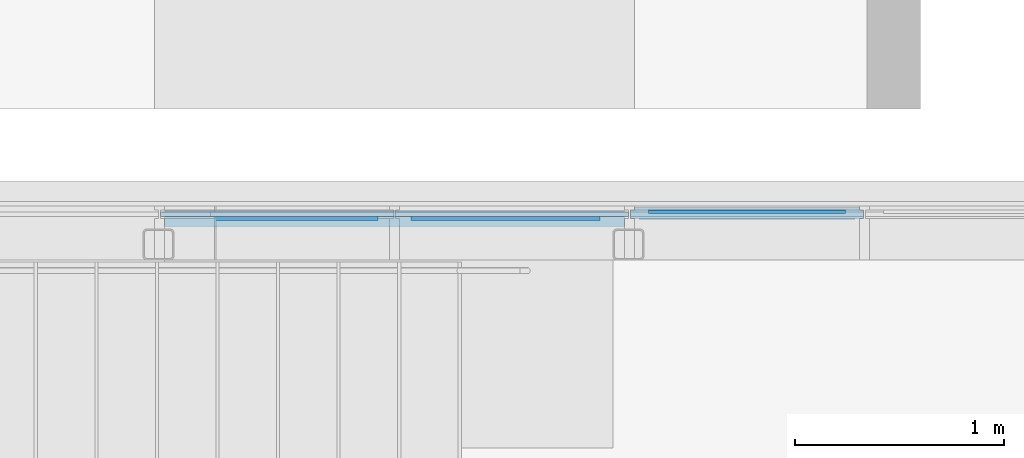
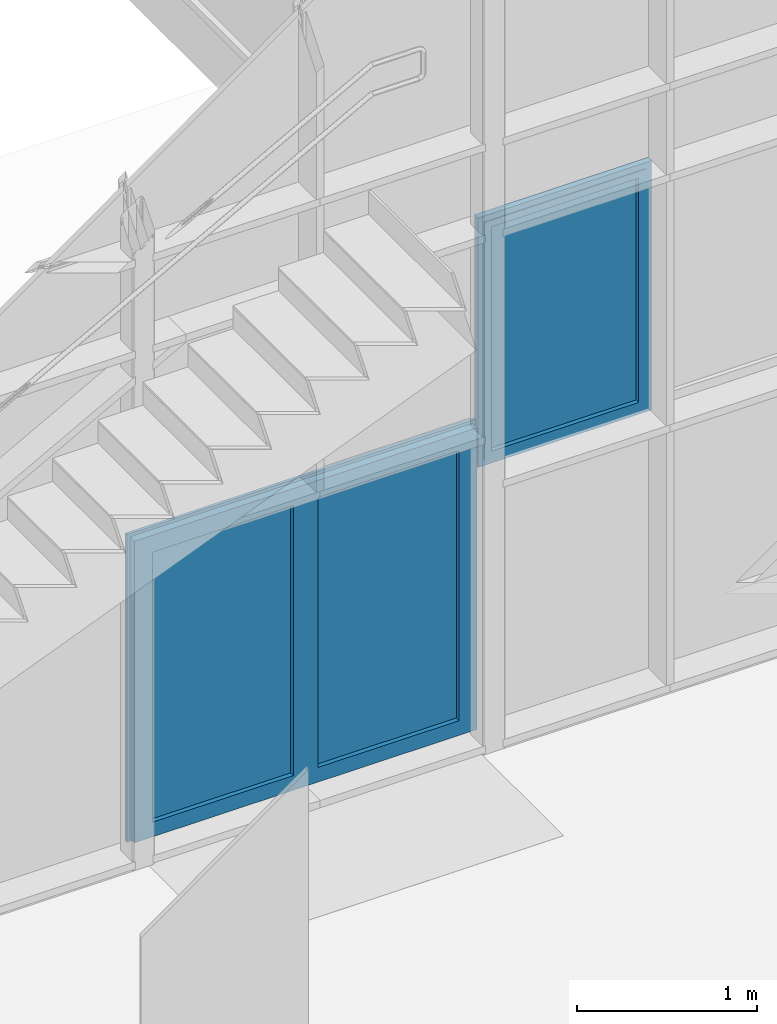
# One storey, part 201 of 301: 4 building element parts, 3 elements without a shape of their own.
"""IFC2X3 building model written with IfcOpenShell, lengths in millimetres."""

import ifcopenshell
import ifcopenshell.guid

model = None  # the IFC model being written
_history = None  # IfcOwnerHistory: only IFC2X3 demands one
_inside = {}  # id of a spatial element -> (the spatial element, [elements in it])
_under = {}  # id of a project, library or spatial element -> (it, [spatial elements below it])
_declared = {}  # id of a project -> (the project, [libraries it declares])
_typed = {}  # id of a type object -> (the type object, [elements of that type])
_made_of = {}  # id of a material, layer set ... -> (it, [elements and type objects made of it])


def new_model(schema):
    """Start an empty IFC model of exactly this schema.

    Asked for "IFC4X3", IfcOpenShell would pick the latest addendum, in which some entities
    have other attributes; the version numbers below select the first issue.
    IFC2X3 requires an IfcOwnerHistory on every rooted entity: one is made here for all.
    """
    global model, _history
    if schema == "IFC4X3":
        model = ifcopenshell.file(schema_version=(4, 3, 0, 0))
    else:
        model = ifcopenshell.file(schema=schema)
    _inside.clear()
    _under.clear()
    _declared.clear()
    _typed.clear()
    _made_of.clear()
    _history = None
    if model.schema == "IFC2X3":
        org = make("IfcOrganization", Name="unknown")
        user = make(
            "IfcPersonAndOrganization",
            ThePerson=make("IfcPerson", FamilyName="unknown"),
            TheOrganization=org,
        )
        app = make(
            "IfcApplication",
            ApplicationDeveloper=org,
            Version="unknown",
            ApplicationFullName="unknown",
            ApplicationIdentifier="unknown",
        )
        _history = make(
            "IfcOwnerHistory",
            OwningUser=user,
            OwningApplication=app,
            ChangeAction="ADDED",
            CreationDate=0,
        )
    return model


def make(cls, **values):
    """One entity of the class cls with the attributes given. An attribute that is None is left unset."""
    return model.create_entity(
        cls, **{name: value for name, value in values.items() if value is not None}
    )


def entity(cls, *values):
    """Any entity or typed value of the class cls, its attributes in the order of the schema. None: left unset."""
    e = model.create_entity(cls)
    for i, value in enumerate(values):
        if value is not None:
            e[i] = value
    return e


def rooted(cls, **values):
    """An entity with a GlobalId (a new one), such as an element, a storey or a relation."""
    return make(cls, GlobalId=ifcopenshell.guid.new(), OwnerHistory=_history, **values)


def si_unit(unit_type, name, prefix=None):
    """IfcSIUnit, for example si_unit("LENGTHUNIT", "METRE", prefix="MILLI")."""
    return make("IfcSIUnit", UnitType=unit_type, Prefix=prefix, Name=name)


def converted_unit(unit_type, name, factor, base, dimensions=None, offset=None):
    """IfcConversionBasedUnit, such as the inch: factor (a typed value) times the base unit."""
    return make(
        "IfcConversionBasedUnit"
        if offset is None
        else "IfcConversionBasedUnitWithOffset",
        ConversionOffset=offset,
        Dimensions=None
        if dimensions is None
        else entity("IfcDimensionalExponents", *dimensions),
        UnitType=unit_type,
        Name=name,
        ConversionFactor=make(
            "IfcMeasureWithUnit", ValueComponent=factor, UnitComponent=base
        ),
    )


def derived_unit(unit_type, elements):
    """IfcDerivedUnit: a product of units, each with its exponent."""
    return make(
        "IfcDerivedUnit",
        Elements=[
            make("IfcDerivedUnitElement", Unit=unit, Exponent=power)
            for unit, power in elements
        ],
        UnitType=unit_type,
    )


def money_unit(currency):
    """IfcMonetaryUnit."""
    return make("IfcMonetaryUnit", Currency=currency)


def assignment(units):
    """IfcUnitAssignment: the units of a project."""
    return None if units is None else make("IfcUnitAssignment", Units=units)


def point(xyz):
    """IfcCartesianPoint."""
    return None if xyz is None else make("IfcCartesianPoint", Coordinates=xyz)


def direction(xyz):
    """IfcDirection."""
    return None if xyz is None else make("IfcDirection", DirectionRatios=xyz)


def frame(location, z_axis=None, x_axis=None):
    """IfcAxis2Placement3D, a coordinate frame: its origin and axes. An axis left out is left unset."""
    return make(
        "IfcAxis2Placement3D",
        Location=point(location),
        Axis=direction(z_axis),
        RefDirection=direction(x_axis),
    )


def origin_with_axes():
    """The frame at (0, 0, 0) with the z axis (0, 0, 1) and the x axis (1, 0, 0) written out."""
    return frame((0.0, 0.0, 0.0), z_axis=(0.0, 0.0, 1.0), x_axis=(1.0, 0.0, 0.0))


def place(relative_to, where):
    """IfcLocalPlacement: puts the frame where relative to a parent placement (None: the world)."""
    return make(
        "IfcLocalPlacement", PlacementRelTo=relative_to, RelativePlacement=where
    )


def context(
    kind, dimensions, precision=None, world=None, true_north=None, identifier=None
):
    """IfcGeometricRepresentationContext, for example the 3D "Model" context."""
    return make(
        "IfcGeometricRepresentationContext",
        ContextIdentifier=identifier,
        ContextType=kind,
        CoordinateSpaceDimension=dimensions,
        Precision=precision,
        WorldCoordinateSystem=world,
        TrueNorth=true_north,
    )


def subcontext(parent, identifier, kind, view, scale=None):
    """IfcGeometricRepresentationSubContext, for example "Body" below "Model"."""
    return make(
        "IfcGeometricRepresentationSubContext",
        ContextIdentifier=identifier,
        ContextType=kind,
        ParentContext=parent,
        TargetScale=scale,
        TargetView=view,
    )


def project(units=None, contexts=None):
    """IfcProject with its units and contexts."""
    return rooted(
        "IfcProject",
        Name="project",
        RepresentationContexts=contexts,
        UnitsInContext=assignment(units),
    )


def spatial(cls, under=None, at=None, **own):
    """A site, building, storey or space (cls), placed at a placement, below another one or the project."""
    s = rooted(cls, ObjectPlacement=at, **own)
    if under is not None:
        _under.setdefault(under.id(), (under, []))[1].append(s)
    return s


def faces_of(points, faces, orient=None, outer=None):
    """IfcFace entities. A face is a list of loops; a loop is a list of indices into points, from 0.

    orient and outer hold one flag for each loop. By default every Orientation is true, the
    first loop of a face is its IfcFaceOuterBound and the others are IfcFaceBound.
    """
    made = []
    for i, loops in enumerate(faces):
        bounds = []
        for j, loop in enumerate(loops):
            is_outer = j == 0 if outer is None else outer[i][j]
            bounds.append(
                make(
                    "IfcFaceOuterBound" if is_outer else "IfcFaceBound",
                    Bound=make("IfcPolyLoop", Polygon=[points[k] for k in loop]),
                    Orientation=True if orient is None else orient[i][j],
                )
            )
        made.append(make("IfcFace", Bounds=bounds))
    return made


def open_shell(faces, orient=None, outer=None):
    """The faces of one IfcOpenShell. surface_model builds it on its shared points."""
    return ("IfcOpenShell", faces, orient, outer)


def faceted_brep(points, faces, orient=None, outer=None, voids=None):
    """IfcFacetedBrep: a solid bounded by flat faces; with voids (closed shells), ...WithVoids."""
    shared = [point(p) for p in points]
    hull = make("IfcClosedShell", CfsFaces=faces_of(shared, faces, orient, outer))
    if voids is None:
        return make("IfcFacetedBrep", Outer=hull)
    return make(
        "IfcFacetedBrepWithVoids",
        Outer=hull,
        Voids=[
            make(cls, CfsFaces=faces_of(shared, fs, o, b)) for cls, fs, o, b in voids
        ],
    )


def surface_model(cls, points, shells):
    """IfcFaceBasedSurfaceModel or IfcShellBasedSurfaceModel (cls): surfaces that need not close."""
    shared = [point(p) for p in points]
    made = [make(c, CfsFaces=faces_of(shared, fs, o, b)) for c, fs, o, b in shells]
    if cls == "IfcFaceBasedSurfaceModel":
        return make(cls, FbsmFaces=made)
    return make(cls, SbsmBoundary=made)


def shape(context_of_items, identifier, shape_type, items):
    """IfcShapeRepresentation: the items that make up one representation, for example the "Body"."""
    return make(
        "IfcShapeRepresentation",
        ContextOfItems=context_of_items,
        RepresentationIdentifier=identifier,
        RepresentationType=shape_type,
        Items=items,
    )


def material(Name=None, Category=None):
    """IfcMaterial."""
    return make("IfcMaterial", Name=Name, Category=Category)


def made_of(thing, what):
    """Note that an element or type object is made of a material, layer set ...; save() writes the relation."""
    if what is not None:
        _made_of.setdefault(what.id(), (what, []))[1].append(thing)
    return thing


def type_object(cls, material=None, **own):
    """A type object (cls), such as IfcWallType, which elements share."""
    return made_of(rooted(cls, **own), material)


def element(
    cls,
    number,
    at=None,
    inside=None,
    cuts=None,
    type_object=None,
    material=None,
    context=None,
    identifier="Body",
    shape_type=None,
    held_by="IfcProductDefinitionShape",
    body=None,
    shapes=None,
    **own,
):
    """One element of the class cls, such as IfcWall. Its Tag is "e" and its number.

    at: its placement. inside: the storey or other place that contains it. cuts: it is an
    opening in that element (IfcRelVoidsElement). A single representation is given by context,
    identifier, shape_type and body (its items); several are given by shapes. held_by: the class
    of the entity that holds the representations. save() writes the other relations.
    """
    e = rooted(cls, Tag="e%d" % number, ObjectPlacement=at, **own)
    if body is not None:
        shapes = [shape(context, identifier, shape_type, body)]
    if shapes is not None:
        e.Representation = make(held_by, Representations=shapes)
    if inside is not None:
        _inside.setdefault(inside.id(), (inside, []))[1].append(e)
    if cuts is not None:
        rooted(
            "IfcRelVoidsElement", RelatingBuildingElement=cuts, RelatedOpeningElement=e
        )
    if type_object is not None:
        _typed.setdefault(type_object.id(), (type_object, []))[1].append(e)
    return made_of(e, material)


def aggregate(whole, parts):
    """IfcRelAggregates: a whole, such as a stair, and the parts it consists of."""
    return rooted("IfcRelAggregates", RelatingObject=whole, RelatedObjects=parts)


def save(model, path):
    """Write the relations noted so far, then the file.

    IfcRelAggregates (storeys below a building ...), IfcRelContainedInSpatialStructure (elements
    in a storey), IfcRelDefinesByType, IfcRelAssociatesMaterial and IfcRelDeclares: one each for
    every whole, place, type object, material and project.
    """
    for whole, parts in _under.values():
        aggregate(whole, parts)
    for where, things in _inside.values():
        rooted(
            "IfcRelContainedInSpatialStructure",
            RelatedElements=things,
            RelatingStructure=where,
        )
    for kind, things in _typed.values():
        rooted("IfcRelDefinesByType", RelatedObjects=things, RelatingType=kind)
    for what, things in _made_of.values():
        rooted("IfcRelAssociatesMaterial", RelatedObjects=things, RelatingMaterial=what)
    for by, libraries in _declared.values():
        rooted("IfcRelDeclares", RelatingContext=by, RelatedDefinitions=libraries)
    model.write(path)


model = new_model("IFC2X3")

# Units and contexts
model_context = context("Model", 3, precision=0.01, world=origin_with_axes(), true_north=direction((0.0, 1.0)))
body_context = subcontext(model_context, "Body", "Model", "MODEL_VIEW")
ifc_project = project(units=[si_unit("LENGTHUNIT", "METRE", prefix="MILLI"), si_unit("AREAUNIT", "SQUARE_METRE"), si_unit("VOLUMEUNIT", "CUBIC_METRE"), converted_unit("PLANEANGLEUNIT", "DEGREE", entity("IfcPlaneAngleMeasure", 0.0174532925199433), si_unit("PLANEANGLEUNIT", "RADIAN"), dimensions=[0, 0, 0, 0, 0, 0, 0]), money_unit("EUR"), converted_unit("TIMEUNIT", "Year", entity("IfcTimeMeasure", 31557600.0), si_unit("TIMEUNIT", "SECOND"), dimensions=[0, 0, 1, 0, 0, 0, 0]), si_unit("MASSUNIT", "GRAM", prefix="KILO"), si_unit("THERMODYNAMICTEMPERATUREUNIT", "DEGREE_CELSIUS"), si_unit("LUMINOUSINTENSITYUNIT", "LUMEN"), si_unit("ENERGYUNIT", "JOULE", prefix="MEGA"), derived_unit("THERMALCONDUCTANCEUNIT", [(si_unit("POWERUNIT", "WATT"), 1), (si_unit("LENGTHUNIT", "METRE"), -1), (si_unit("THERMODYNAMICTEMPERATUREUNIT", "KELVIN"), -1)]), derived_unit("SPECIFICHEATCAPACITYUNIT", [(si_unit("ENERGYUNIT", "JOULE"), 1), (si_unit("MASSUNIT", "GRAM", prefix="KILO"), -1), (si_unit("THERMODYNAMICTEMPERATUREUNIT", "KELVIN"), -1)]), derived_unit("MASSDENSITYUNIT", [(si_unit("MASSUNIT", "GRAM", prefix="KILO"), 1), (si_unit("VOLUMEUNIT", "CUBIC_METRE"), -1)])], contexts=[model_context])

# Site, building, storey
site_placement = place(None, frame((0.0, 0.0, 8650.0), z_axis=(0.0, 0.0, 1.0), x_axis=(1.0, 0.0, 0.0)))
site = spatial("IfcSite", under=ifc_project, at=site_placement, Name="43301:001:0844", CompositionType="ELEMENT")
building_placement = place(site_placement, origin_with_axes())
building = spatial("IfcBuilding", under=site, at=building_placement, Name="Kuressaare Ametikooli tuulikute mehaanikute õppekorpus", CompositionType="ELEMENT")
storey_placement = place(building_placement, origin_with_axes())
storey = spatial("IfcBuildingStorey", under=building, at=storey_placement, Name="1.korrus", CompositionType="ELEMENT", Elevation=0.0)

# Curtain wall, window, building element parts, door
curtain_wall_type = type_object("IfcCurtainWallType", Name="Curtain Wall Type", PredefinedType="NOTDEFINED")
curtain_wall_placement = place(storey_placement, frame((116704.6026822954, 28579.57374875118, 35.00000000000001), z_axis=(0.0, 0.0, 1.0), x_axis=(1.0, 0.0, 0.0)))
curtain_wall = element("IfcCurtainWall", 1, at=curtain_wall_placement, inside=storey, type_object=curtain_wall_type, Name="KF-1.1")
window_style = type_object("IfcWindowStyle", Name="1115 x 1165 x 40", ConstructionType="NOTDEFINED", OperationType="SINGLE_PANEL", ParameterTakesPrecedence=False, Sizeable=False)
window_placement = place(curtain_wall_placement, frame((-187.5, 0.0, 2478.333325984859), z_axis=(0.0, 0.0, 1.0), x_axis=(-1.0, 0.0, 0.0)))
window = element("IfcWindow", 2, at=window_placement, type_object=window_style, OverallHeight=1655.0, OverallWidth=1075.0)
ifc_material_1 = material(Name="Aluminium")
building_element_part_1_placement = place(window_placement, origin_with_axes())
building_element_part_1 = element("IfcBuildingElementPart", 3, at=building_element_part_1_placement, material=ifc_material_1, Name="Aluminium", context=body_context, shape_type="Brep", body=[
    faceted_brep([(349.9999998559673, -29.99999999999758, -688.3333276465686), (349.9999998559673, -34.99999999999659, -688.3333276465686), (-725.0000063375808, -34.99999999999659, -688.3333276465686), (-725.0000063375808, -29.99999999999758, -688.3333276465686), (304.9999998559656, -29.99999999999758, -643.3333276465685), (304.9999998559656, -34.99999999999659, -643.3333276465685), (-680.0000063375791, -34.99999999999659, -643.3333276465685), (-680.0000063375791, -29.99999999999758, -643.3333276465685)], [[[0, 1, 2, 3]], [[4, 5, 1, 0]], [[1, 5, 6, 2]], [[3, 2, 6, 7]], [[0, 3, 7, 4]], [[7, 6, 5, 4]]]),
    faceted_brep([(-725.0000063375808, -29.99999999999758, -688.3333276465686), (-725.0000063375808, -34.99999999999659, -688.3333276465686), (-725.0000063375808, -34.99999999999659, 966.6666818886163), (-725.0000063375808, -29.99999999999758, 966.6666818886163), (-680.0000063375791, -29.99999999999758, -643.3333276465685), (-680.0000063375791, -34.99999999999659, -643.3333276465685), (-680.0000063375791, -34.99999999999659, 921.6666818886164), (-680.0000063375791, -29.99999999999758, 921.6666818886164)], [[[0, 1, 2, 3]], [[4, 5, 1, 0]], [[1, 5, 6, 2]], [[3, 2, 6, 7]], [[0, 3, 7, 4]], [[7, 6, 5, 4]]]),
    faceted_brep([(349.9999998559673, -29.99999999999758, 966.6666818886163), (349.9999998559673, -34.99999999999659, 966.6666818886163), (304.9999998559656, -34.99999999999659, 921.6666818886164), (304.9999998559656, -29.99999999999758, 921.6666818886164), (-725.0000063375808, -29.99999999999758, 966.6666818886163), (-725.0000063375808, -34.99999999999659, 966.6666818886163), (-680.0000063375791, -34.99999999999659, 921.6666818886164), (-680.0000063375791, -29.99999999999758, 921.6666818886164)], [[[0, 1, 2, 3]], [[4, 5, 1, 0]], [[1, 5, 6, 2]], [[3, 2, 6, 7]], [[0, 3, 7, 4]], [[7, 6, 5, 4]]]),
    faceted_brep([(349.9999998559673, -29.99999999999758, -688.3333276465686), (349.9999998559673, -34.99999999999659, -688.3333276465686), (304.9999998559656, -34.99999999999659, -643.3333276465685), (304.9999998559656, -29.99999999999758, -643.3333276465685), (349.9999998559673, -29.99999999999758, 966.6666818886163), (349.9999998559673, -34.99999999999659, 966.6666818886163), (304.9999998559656, -34.99999999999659, 921.6666818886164), (304.9999998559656, -29.99999999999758, 921.6666818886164)], [[[0, 1, 2, 3]], [[4, 5, 1, 0]], [[1, 5, 6, 2]], [[3, 2, 6, 7]], [[0, 3, 7, 4]], [[7, 6, 5, 4]]]),
    faceted_brep([(349.9999998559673, 20.00000000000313, -688.3333276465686), (349.9999998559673, -29.99999999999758, -688.3333276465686), (-725.0000063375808, -29.99999999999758, -688.3333276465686), (-725.0000063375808, 20.00000000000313, -688.3333276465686), (329.9999998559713, 20.00000000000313, -668.3333276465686), (329.9999998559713, -29.99999999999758, -668.3333276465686), (-705.0000063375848, -29.99999999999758, -668.3333276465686), (-705.0000063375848, 20.00000000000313, -668.3333276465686)], [[[0, 1, 2, 3]], [[4, 5, 1, 0]], [[1, 5, 6, 2]], [[3, 2, 6, 7]], [[0, 3, 7, 4]], [[7, 6, 5, 4]]]),
    faceted_brep([(-725.0000063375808, 20.00000000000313, -688.3333276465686), (-725.0000063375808, -29.99999999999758, -688.3333276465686), (-725.0000063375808, -29.99999999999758, 966.6666818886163), (-725.0000063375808, 20.00000000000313, 966.6666818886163), (-705.0000063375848, 20.00000000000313, -668.3333276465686), (-705.0000063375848, -29.99999999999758, -668.3333276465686), (-705.0000063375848, -29.99999999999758, 946.6666818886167), (-705.0000063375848, 20.00000000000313, 946.6666818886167)], [[[0, 1, 2, 3]], [[4, 5, 1, 0]], [[1, 5, 6, 2]], [[3, 2, 6, 7]], [[0, 3, 7, 4]], [[7, 6, 5, 4]]]),
    faceted_brep([(349.9999998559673, 20.00000000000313, 966.6666818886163), (349.9999998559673, -29.99999999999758, 966.6666818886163), (329.9999998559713, -29.99999999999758, 946.6666818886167), (329.9999998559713, 20.00000000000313, 946.6666818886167), (-725.0000063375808, 20.00000000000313, 966.6666818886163), (-725.0000063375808, -29.99999999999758, 966.6666818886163), (-705.0000063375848, -29.99999999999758, 946.6666818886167), (-705.0000063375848, 20.00000000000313, 946.6666818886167)], [[[0, 1, 2, 3]], [[4, 5, 1, 0]], [[1, 5, 6, 2]], [[3, 2, 6, 7]], [[0, 3, 7, 4]], [[7, 6, 5, 4]]]),
    faceted_brep([(349.9999998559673, 20.00000000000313, -688.3333276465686), (349.9999998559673, -29.99999999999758, -688.3333276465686), (329.9999998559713, -29.99999999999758, -668.3333276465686), (329.9999998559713, 20.00000000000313, -668.3333276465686), (349.9999998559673, 20.00000000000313, 966.6666818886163), (349.9999998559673, -29.99999999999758, 966.6666818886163), (329.9999998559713, -29.99999999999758, 946.6666818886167), (329.9999998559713, 20.00000000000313, 946.6666818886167)], [[[0, 1, 2, 3]], [[4, 5, 1, 0]], [[1, 5, 6, 2]], [[3, 2, 6, 7]], [[0, 3, 7, 4]], [[7, 6, 5, 4]]]),
    faceted_brep([(369.9999999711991, 20.00000000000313, -708.3333277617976), (369.9999999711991, -19.99999999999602, -708.3333277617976), (-745.0000064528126, -19.99999999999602, -708.3333277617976), (-745.0000064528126, 20.00000000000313, -708.3333277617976), (349.9999998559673, 20.00000000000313, -688.3333276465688), (349.9999998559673, -19.99999999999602, -688.3333276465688), (-725.0000063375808, -19.99999999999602, -688.3333276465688), (-725.0000063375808, 20.00000000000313, -688.3333276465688)], [[[0, 1, 2, 3]], [[4, 5, 1, 0]], [[1, 5, 6, 2]], [[3, 2, 6, 7]], [[0, 3, 7, 4]], [[7, 6, 5, 4]]]),
    faceted_brep([(-745.0000064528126, 20.00000000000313, -708.3333277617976), (-745.0000064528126, -19.99999999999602, -708.3333277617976), (-745.0000064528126, -19.99999999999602, 986.6666820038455), (-745.0000064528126, 20.00000000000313, 986.6666820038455), (-725.0000063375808, 20.00000000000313, -688.3333276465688), (-725.0000063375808, -19.99999999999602, -688.3333276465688), (-725.0000063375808, -19.99999999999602, 966.6666818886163), (-725.0000063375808, 20.00000000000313, 966.6666818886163)], [[[0, 1, 2, 3]], [[4, 5, 1, 0]], [[1, 5, 6, 2]], [[3, 2, 6, 7]], [[0, 3, 7, 4]], [[7, 6, 5, 4]]]),
    faceted_brep([(-745.0000064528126, 20.00000000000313, 986.6666820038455), (-745.0000064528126, -19.99999999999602, 986.6666820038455), (369.9999999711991, -19.99999999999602, 986.6666820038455), (369.9999999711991, 20.00000000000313, 986.6666820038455), (-725.0000063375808, 20.00000000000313, 966.6666818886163), (-725.0000063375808, -19.99999999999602, 966.6666818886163), (349.9999998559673, -19.99999999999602, 966.6666818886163), (349.9999998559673, 20.00000000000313, 966.6666818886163)], [[[0, 1, 2, 3]], [[4, 5, 1, 0]], [[1, 5, 6, 2]], [[3, 2, 6, 7]], [[0, 3, 7, 4]], [[7, 6, 5, 4]]]),
    faceted_brep([(369.9999999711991, 20.00000000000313, 986.6666820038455), (369.9999999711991, -19.99999999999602, 986.6666820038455), (369.9999999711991, -19.99999999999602, -708.3333277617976), (369.9999999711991, 20.00000000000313, -708.3333277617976), (349.9999998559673, 20.00000000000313, 966.6666818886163), (349.9999998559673, -19.99999999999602, 966.6666818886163), (349.9999998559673, -19.99999999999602, -688.3333276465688), (349.9999998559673, 20.00000000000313, -688.3333276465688)], [[[0, 1, 2, 3]], [[4, 5, 1, 0]], [[1, 5, 6, 2]], [[3, 2, 6, 7]], [[0, 3, 7, 4]], [[7, 6, 5, 4]]]),
    faceted_brep([(284.9999998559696, -29.99999999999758, -623.3333276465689), (284.9999998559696, -29.99999999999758, 901.6666818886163), (284.9999998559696, 25.00000000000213, 901.6666818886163), (284.9999998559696, 25.00000000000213, -623.3333276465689), (329.9999998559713, -29.99999999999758, -668.3333276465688), (329.9999998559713, -29.99999999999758, 946.6666818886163), (329.9999998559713, 25.00000000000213, 946.6666818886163), (329.9999998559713, 25.00000000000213, -668.3333276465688)], [[[0, 1, 2, 3]], [[0, 4, 5, 1]], [[1, 5, 6, 2]], [[3, 2, 6, 7]], [[4, 0, 3, 7]], [[5, 4, 7, 6]]]),
    faceted_brep([(-705.0000063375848, -29.99999999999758, -668.3333276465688), (-705.0000063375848, -29.99999999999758, 946.6666818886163), (-705.0000063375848, 25.00000000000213, 946.6666818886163), (-705.0000063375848, 25.00000000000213, -668.3333276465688), (-660.000006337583, -29.99999999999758, -623.3333276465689), (-660.000006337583, -29.99999999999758, 901.6666818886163), (-660.000006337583, 25.00000000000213, 901.6666818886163), (-660.000006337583, 25.00000000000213, -623.3333276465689)], [[[0, 1, 2, 3]], [[0, 4, 5, 1]], [[1, 5, 6, 2]], [[3, 2, 6, 7]], [[4, 0, 3, 7]], [[5, 4, 7, 6]]]),
    faceted_brep([(-705.0000063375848, -29.99999999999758, -668.3333276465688), (-660.000006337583, -29.99999999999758, -623.3333276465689), (-660.000006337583, 25.00000000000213, -623.3333276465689), (-705.0000063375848, 25.00000000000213, -668.3333276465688), (329.9999998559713, -29.99999999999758, -668.3333276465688), (284.9999998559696, -29.99999999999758, -623.3333276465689), (284.9999998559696, 25.00000000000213, -623.3333276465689), (329.9999998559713, 25.00000000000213, -668.3333276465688)], [[[0, 1, 2, 3]], [[0, 4, 5, 1]], [[1, 5, 6, 2]], [[3, 2, 6, 7]], [[4, 0, 3, 7]], [[5, 4, 7, 6]]]),
    faceted_brep([(329.9999998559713, -29.99999999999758, 946.6666818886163), (284.9999998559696, -29.99999999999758, 901.6666818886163), (284.9999998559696, 25.00000000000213, 901.6666818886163), (329.9999998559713, 25.00000000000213, 946.6666818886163), (-705.0000063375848, -29.99999999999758, 946.6666818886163), (-660.000006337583, -29.99999999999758, 901.6666818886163), (-660.000006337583, 25.00000000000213, 901.6666818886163), (-705.0000063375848, 25.00000000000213, 946.6666818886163)], [[[0, 1, 2, 3]], [[0, 4, 5, 1]], [[1, 5, 6, 2]], [[3, 2, 6, 7]], [[4, 0, 3, 7]], [[5, 4, 7, 6]]]),
])
ifc_material_2 = material(Name="Klaas")
building_element_part_2_placement = place(window_placement, origin_with_axes())
building_element_part_2 = element("IfcBuildingElementPart", 4, at=building_element_part_2_placement, material=ifc_material_2, Name="Klaas", context=body_context, shape_type="Brep", body=[
    faceted_brep([(284.9999998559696, -19.99999999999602, -623.3333276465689), (-660.000006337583, -19.99999999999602, -623.3333276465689), (-660.000006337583, -3.999999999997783, -623.3333276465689), (284.9999998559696, -3.999999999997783, -623.3333276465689), (284.9999998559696, -19.99999999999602, 901.6666818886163), (-660.000006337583, -19.99999999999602, 901.6666818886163), (-660.000006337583, -3.999999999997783, 901.6666818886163), (284.9999998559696, -3.999999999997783, 901.6666818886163)], [[[0, 1, 2, 3]], [[0, 4, 5, 1]], [[1, 5, 6, 2]], [[3, 2, 6, 7]], [[4, 0, 3, 7]], [[5, 4, 7, 6]]]),
])
aggregate(window, [building_element_part_1, building_element_part_2])
door_style = type_object("IfcDoorStyle", Name="1120 x 2090 x 20", ConstructionType="NOTDEFINED", OperationType="DOUBLE_DOOR_SINGLE_SWING", ParameterTakesPrecedence=False, Sizeable=False)
door_placement = place(curtain_wall_placement, frame((-1526.785714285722, 0.0, 1152.142839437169), z_axis=(0.0, 0.0, 1.0), x_axis=(1.0, 0.0, 0.0)))
door = element("IfcDoor", 5, at=door_placement, type_object=door_style, Name="AVU10+10x23", OverallHeight=2050.0, OverallWidth=2200.0)
aggregate(curtain_wall, [door, window])
building_element_part_3_placement = place(door_placement, origin_with_axes())
building_element_part_3 = element("IfcBuildingElementPart", 6, at=building_element_part_3_placement, material=ifc_material_1, Name="Aluminium", context=body_context, shape_type="SurfaceModel", body=[
    surface_model("IfcShellBasedSurfaceModel", [(939.2857254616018, -60.00000000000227, -1127.142850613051), (939.2857254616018, -60.00000000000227, 922.8571046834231), (894.2857254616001, -60.00000000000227, 877.8571046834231), (894.2857254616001, -60.00000000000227, -1127.142850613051)], [open_shell([[[0, 1, 2, 3]]])]),
    surface_model("IfcShellBasedSurfaceModel", [(-1260.714296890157, -60.00000000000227, 922.8571046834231), (-1215.714296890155, -60.00000000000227, 877.8571046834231), (894.2857254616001, -60.00000000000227, 877.8571046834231), (939.2857254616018, -60.00000000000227, 922.8571046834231)], [open_shell([[[0, 1, 2, 3]]])]),
    surface_model("IfcShellBasedSurfaceModel", [(-1260.714296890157, -60.00000000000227, -1127.142850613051), (-1215.714296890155, -60.00000000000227, -1127.142850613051), (-1215.714296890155, -60.00000000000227, 877.8571046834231), (-1260.714296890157, -60.00000000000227, 922.8571046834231)], [open_shell([[[0, 1, 2, 3]]])]),
    faceted_brep([(939.2857254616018, -60.00000000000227, -1127.142850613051), (939.2857254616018, 19.99999999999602, -1127.142850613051), (939.2857254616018, 19.99999999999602, 922.8571046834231), (939.2857254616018, -60.00000000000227, 922.8571046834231), (904.2857254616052, -60.00000000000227, -1127.142850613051), (904.2857254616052, 19.99999999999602, -1127.142850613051), (904.2857254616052, 19.99999999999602, 887.8571046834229), (904.2857254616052, -60.00000000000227, 887.8571046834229)], [[[0, 1, 2, 3]], [[4, 5, 1, 0]], [[1, 5, 6, 2]], [[3, 2, 6, 7]], [[0, 3, 7, 4]], [[7, 6, 5, 4]]]),
    faceted_brep([(-1260.714296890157, -60.00000000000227, 922.8571046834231), (-1260.714296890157, 19.99999999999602, 922.8571046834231), (-1225.71429689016, 19.99999999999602, 887.8571046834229), (-1225.71429689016, -60.00000000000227, 887.8571046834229), (939.2857254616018, -60.00000000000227, 922.8571046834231), (939.2857254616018, 19.99999999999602, 922.8571046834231), (904.2857254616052, 19.99999999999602, 887.8571046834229), (904.2857254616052, -60.00000000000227, 887.8571046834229)], [[[0, 1, 2, 3]], [[4, 5, 1, 0]], [[1, 5, 6, 2]], [[3, 2, 6, 7]], [[0, 3, 7, 4]], [[7, 6, 5, 4]]]),
    faceted_brep([(-1260.714296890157, -60.00000000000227, -1127.142850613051), (-1260.714296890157, 19.99999999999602, -1127.142850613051), (-1225.71429689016, 19.99999999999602, -1127.142850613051), (-1225.71429689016, -60.00000000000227, -1127.142850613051), (-1260.714296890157, -60.00000000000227, 922.8571046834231), (-1260.714296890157, 19.99999999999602, 922.8571046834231), (-1225.71429689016, 19.99999999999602, 887.8571046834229), (-1225.71429689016, -60.00000000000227, 887.8571046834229)], [[[0, 1, 2, 3]], [[4, 5, 1, 0]], [[1, 5, 6, 2]], [[3, 2, 6, 7]], [[0, 3, 7, 4]], [[7, 6, 5, 4]]]),
    faceted_brep([(904.2857254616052, -60.00000000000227, -1127.142850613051), (904.2857254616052, 19.99999999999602, -1127.142850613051), (904.2857254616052, 19.99999999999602, -1107.142850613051), (904.2857254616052, -60.00000000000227, -1107.142850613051), (-1225.71429689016, -60.00000000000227, -1127.142850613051), (-1225.71429689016, 19.99999999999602, -1127.142850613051), (-1225.71429689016, 19.99999999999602, -1107.142850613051), (-1225.71429689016, -60.00000000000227, -1107.142850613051)], [[[0, 1, 2, 3]], [[4, 5, 1, 0]], [[1, 5, 6, 2]], [[3, 2, 6, 7]], [[0, 3, 7, 4]], [[7, 6, 5, 4]]]),
    faceted_brep([(-1280.714274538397, -10.00000000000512, -1147.142828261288), (-1280.714274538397, 9.99999999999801, -1147.142828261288), (959.2857031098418, 9.99999999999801, -1147.142828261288), (959.2857031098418, -10.00000000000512, -1147.142828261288), (-1260.714296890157, -10.00000000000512, -1127.142850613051), (-1260.714296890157, 9.99999999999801, -1127.142850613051), (939.2857254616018, 9.99999999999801, -1127.142850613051), (939.2857254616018, -10.00000000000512, -1127.142850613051)], [[[0, 1, 2, 3]], [[4, 5, 1, 0]], [[1, 5, 6, 2]], [[3, 2, 6, 7]], [[0, 3, 7, 4]], [[7, 6, 5, 4]]]),
    faceted_brep([(959.2857031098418, -10.00000000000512, -1147.142828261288), (959.2857031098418, 9.99999999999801, -1147.142828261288), (959.2857031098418, 9.99999999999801, 942.8571158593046), (959.2857031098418, -10.00000000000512, 942.8571158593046), (939.2857254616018, -10.00000000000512, -1127.142850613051), (939.2857254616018, 9.99999999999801, -1127.142850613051), (939.2857254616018, 9.99999999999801, 922.8571046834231), (939.2857254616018, -10.00000000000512, 922.8571046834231)], [[[0, 1, 2, 3]], [[4, 5, 1, 0]], [[1, 5, 6, 2]], [[3, 2, 6, 7]], [[0, 3, 7, 4]], [[7, 6, 5, 4]]]),
    faceted_brep([(959.2857031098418, -10.00000000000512, 942.8571158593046), (959.2857031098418, 9.99999999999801, 942.8571158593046), (-1280.714274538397, 9.99999999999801, 942.8571158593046), (-1280.714274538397, -10.00000000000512, 942.8571158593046), (939.2857254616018, -10.00000000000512, 922.8571046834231), (939.2857254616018, 9.99999999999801, 922.8571046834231), (-1260.714296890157, 9.99999999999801, 922.8571046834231), (-1260.714296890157, -10.00000000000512, 922.8571046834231)], [[[0, 1, 2, 3]], [[4, 5, 1, 0]], [[1, 5, 6, 2]], [[3, 2, 6, 7]], [[0, 3, 7, 4]], [[7, 6, 5, 4]]]),
    faceted_brep([(-1280.714274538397, -10.00000000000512, 942.8571158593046), (-1280.714274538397, 9.99999999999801, 942.8571158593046), (-1280.714274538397, 9.99999999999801, -1147.142828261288), (-1280.714274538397, -10.00000000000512, -1147.142828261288), (-1260.714296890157, -10.00000000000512, 922.8571046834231), (-1260.714296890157, 9.99999999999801, 922.8571046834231), (-1260.714296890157, 9.99999999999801, -1127.142850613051), (-1260.714296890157, -10.00000000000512, -1127.142850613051)], [[[0, 1, 2, 3]], [[4, 5, 1, 0]], [[1, 5, 6, 2]], [[3, 2, 6, 7]], [[0, 3, 7, 4]], [[7, 6, 5, 4]]]),
    faceted_brep([(-1145.714296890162, -60.00000000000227, -1027.142850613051), (-1145.714296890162, 19.99999999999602, -1027.142850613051), (-1145.714296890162, 19.99999999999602, 807.8571046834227), (-1145.714296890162, -60.00000000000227, 807.8571046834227), (-1225.71429689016, -60.00000000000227, -1107.142850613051), (-1225.71429689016, 19.99999999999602, -1107.142850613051), (-1225.71429689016, 19.99999999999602, 887.8571046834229), (-1225.71429689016, -60.00000000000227, 887.8571046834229)], [[[0, 1, 2, 3]], [[4, 5, 1, 0]], [[1, 5, 6, 2]], [[3, 2, 6, 7]], [[0, 3, 7, 4]], [[7, 6, 5, 4]]]),
    faceted_brep([(-160.7142857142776, -60.00000000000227, -1107.142850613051), (-160.7142857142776, 19.99999999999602, -1107.142850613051), (-160.7142857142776, 19.99999999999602, 887.8571046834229), (-160.7142857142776, -60.00000000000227, 887.8571046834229), (-240.7142857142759, -60.00000000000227, -1027.142850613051), (-240.7142857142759, 19.99999999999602, -1027.142850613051), (-240.7142857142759, 19.99999999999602, 807.8571046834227), (-240.7142857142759, -60.00000000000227, 807.8571046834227)], [[[0, 1, 2, 3]], [[4, 5, 1, 0]], [[1, 5, 6, 2]], [[3, 2, 6, 7]], [[0, 3, 7, 4]], [[7, 6, 5, 4]]]),
    faceted_brep([(-160.7142857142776, -60.00000000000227, -1107.142850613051), (-160.7142857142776, 19.99999999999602, -1107.142850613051), (-240.7142857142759, 19.99999999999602, -1027.142850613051), (-240.7142857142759, -60.00000000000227, -1027.142850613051), (-1225.71429689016, -60.00000000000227, -1107.142850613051), (-1225.71429689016, 19.99999999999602, -1107.142850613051), (-1145.714296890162, 19.99999999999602, -1027.142850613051), (-1145.714296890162, -60.00000000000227, -1027.142850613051)], [[[0, 1, 2, 3]], [[4, 5, 1, 0]], [[1, 5, 6, 2]], [[3, 2, 6, 7]], [[0, 3, 7, 4]], [[7, 6, 5, 4]]]),
    faceted_brep([(-1225.71429689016, -60.00000000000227, 887.8571046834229), (-1225.71429689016, 19.99999999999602, 887.8571046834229), (-1145.714296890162, 19.99999999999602, 807.8571046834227), (-1145.714296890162, -60.00000000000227, 807.8571046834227), (-160.7142857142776, -60.00000000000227, 887.8571046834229), (-160.7142857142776, 19.99999999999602, 887.8571046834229), (-240.7142857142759, 19.99999999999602, 807.8571046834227), (-240.7142857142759, -60.00000000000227, 807.8571046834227)], [[[0, 1, 2, 3]], [[4, 5, 1, 0]], [[1, 5, 6, 2]], [[3, 2, 6, 7]], [[0, 3, 7, 4]], [[7, 6, 5, 4]]]),
    faceted_brep([(-80.7142857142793, -60.00000000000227, -1027.142850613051), (-80.7142857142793, 19.99999999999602, -1027.142850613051), (-80.7142857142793, 19.99999999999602, 807.8571046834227), (-80.7142857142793, -60.00000000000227, 807.8571046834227), (-160.7142857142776, -60.00000000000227, -1107.142850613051), (-160.7142857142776, 19.99999999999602, -1107.142850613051), (-160.7142857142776, 19.99999999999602, 887.8571046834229), (-160.7142857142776, -60.00000000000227, 887.8571046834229)], [[[0, 1, 2, 3]], [[4, 5, 1, 0]], [[1, 5, 6, 2]], [[3, 2, 6, 7]], [[0, 3, 7, 4]], [[7, 6, 5, 4]]]),
    faceted_brep([(904.2857254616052, -60.00000000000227, -1107.142850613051), (904.2857254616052, 19.99999999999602, -1107.142850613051), (904.2857254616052, 19.99999999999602, 887.8571046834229), (904.2857254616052, -60.00000000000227, 887.8571046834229), (824.285725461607, -60.00000000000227, -1027.142850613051), (824.285725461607, 19.99999999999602, -1027.142850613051), (824.285725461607, 19.99999999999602, 807.8571046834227), (824.285725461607, -60.00000000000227, 807.8571046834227)], [[[0, 1, 2, 3]], [[4, 5, 1, 0]], [[1, 5, 6, 2]], [[3, 2, 6, 7]], [[0, 3, 7, 4]], [[7, 6, 5, 4]]]),
    faceted_brep([(904.2857254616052, -60.00000000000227, -1107.142850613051), (904.2857254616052, 19.99999999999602, -1107.142850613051), (824.285725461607, 19.99999999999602, -1027.142850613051), (824.285725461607, -60.00000000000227, -1027.142850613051), (-160.7142857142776, -60.00000000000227, -1107.142850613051), (-160.7142857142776, 19.99999999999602, -1107.142850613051), (-80.7142857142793, 19.99999999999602, -1027.142850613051), (-80.7142857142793, -60.00000000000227, -1027.142850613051)], [[[0, 1, 2, 3]], [[4, 5, 1, 0]], [[1, 5, 6, 2]], [[3, 2, 6, 7]], [[0, 3, 7, 4]], [[7, 6, 5, 4]]]),
    faceted_brep([(-160.7142857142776, -60.00000000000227, 887.8571046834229), (-160.7142857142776, 19.99999999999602, 887.8571046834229), (-80.7142857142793, 19.99999999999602, 807.8571046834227), (-80.7142857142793, -60.00000000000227, 807.8571046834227), (904.2857254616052, -60.00000000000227, 887.8571046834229), (904.2857254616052, 19.99999999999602, 887.8571046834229), (824.285725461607, 19.99999999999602, 807.8571046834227), (824.285725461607, -60.00000000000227, 807.8571046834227)], [[[0, 1, 2, 3]], [[4, 5, 1, 0]], [[1, 5, 6, 2]], [[3, 2, 6, 7]], [[0, 3, 7, 4]], [[7, 6, 5, 4]]]),
])
building_element_part_4_placement = place(door_placement, origin_with_axes())
building_element_part_4 = element("IfcBuildingElementPart", 7, at=building_element_part_4_placement, material=ifc_material_2, Name="Klaas", context=body_context, shape_type="Brep", body=[
    faceted_brep([(-1145.714296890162, -30.00000000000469, -1027.142850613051), (-1145.714296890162, 9.99999999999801, -1027.142850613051), (-240.7142857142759, 9.99999999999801, -1027.142850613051), (-240.7142857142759, -30.00000000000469, -1027.142850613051), (-1145.714296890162, -30.00000000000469, 807.8571046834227), (-1145.714296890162, 9.99999999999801, 807.8571046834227), (-240.7142857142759, 9.99999999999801, 807.8571046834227), (-240.7142857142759, -30.00000000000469, 807.8571046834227)], [[[0, 1, 2, 3]], [[4, 5, 1, 0]], [[1, 5, 6, 2]], [[3, 2, 6, 7]], [[0, 3, 7, 4]], [[7, 6, 5, 4]]]),
    faceted_brep([(-80.7142857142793, -30.00000000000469, -1027.142850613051), (-80.7142857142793, 9.99999999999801, -1027.142850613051), (824.285725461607, 9.99999999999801, -1027.142850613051), (824.285725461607, -30.00000000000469, -1027.142850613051), (-80.7142857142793, -30.00000000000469, 807.8571046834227), (-80.7142857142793, 9.99999999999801, 807.8571046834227), (824.285725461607, 9.99999999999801, 807.8571046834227), (824.285725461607, -30.00000000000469, 807.8571046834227)], [[[0, 1, 2, 3]], [[4, 5, 1, 0]], [[1, 5, 6, 2]], [[3, 2, 6, 7]], [[0, 3, 7, 4]], [[7, 6, 5, 4]]]),
])
aggregate(door, [building_element_part_3, building_element_part_4])

save(model, "model.ifc")
